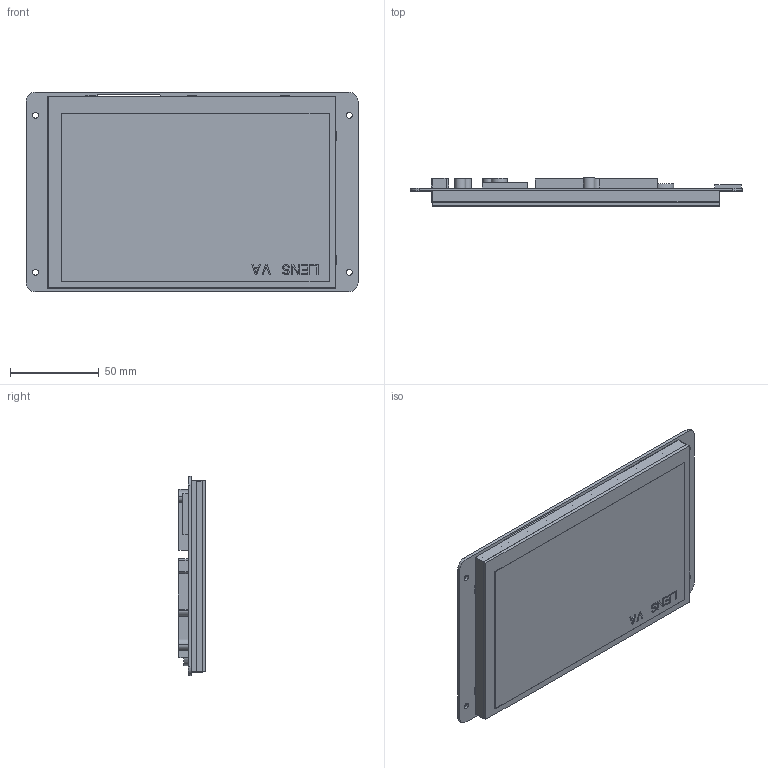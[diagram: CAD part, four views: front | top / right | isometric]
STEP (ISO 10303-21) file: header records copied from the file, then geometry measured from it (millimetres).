
FILE_DESCRIPTION((''),'2;1');
FILE_NAME('DMG12800K070-03WTC_ASM','2022-02-22T',('Administrator'),(''),'PRO/ENGINEER BY PARAMETRIC TECHNOLOGY CORPORATION, 2014320','PRO/ENGINEER BY PARAMETRIC TECHNOLOGY CORPORATION, 2014320','');
FILE_SCHEMA(('CONFIG_CONTROL_DESIGN','SHAPE_APPEARANCE_LAYERS_GROUPS'));
Length unit declared in the file: millimetre
Products named in the file (5): TK070024; TM070JDHG30-00; PCB; TPC070T0085; DMG12800K070-03WTC_ASM
Assembly tree (4 placements, depth 2):
  DMG12800K070-03WTC_ASM
    TK070024
    TM070JDHG30-00
    PCB
    TPC070T0085
Bounding box: 186.94 x 15.68 x 112.14 mm (x, y, z)
Volume: 135675.4 mm3; surface area: 131595.5 mm2
Topology: 4 solids, 4 shells, 300 faces, 786 edges, 524 vertices
Faces by surface type: plane 268, cylinder 32
Entity records: 9383 total; most frequent: CARTESIAN_POINT 1619, ORIENTED_EDGE 1572, DIRECTION 1468, EDGE_CURVE 786, VECTOR 722, LINE 722, VERTEX_POINT 524, AXIS2_PLACEMENT_3D 373
